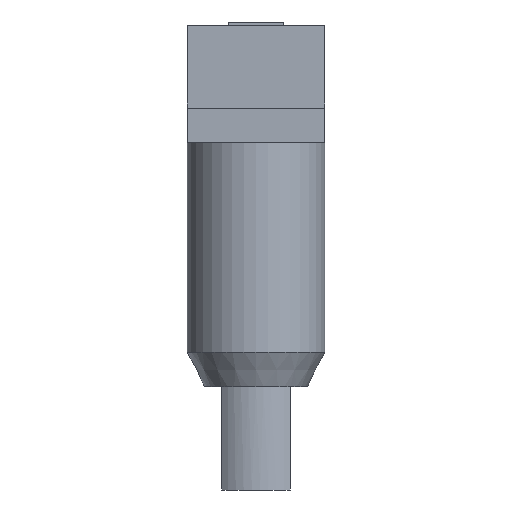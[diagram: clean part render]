
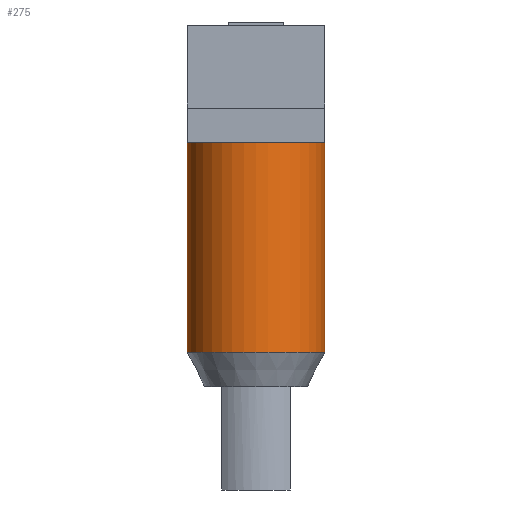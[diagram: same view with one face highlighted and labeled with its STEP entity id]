
A CAD part, left-side view. The second image highlights one B-rep face of the part: STEP entity #275.
In plain terms, the highlighted cylindrical face has radius 2 mm (diameter 4 mm), a full revolution.
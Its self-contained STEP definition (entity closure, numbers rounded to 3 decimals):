
#275=ADVANCED_FACE('',(#535,#537),#539,.T.);
#535=FACE_BOUND('',#536,.T.);
#536=EDGE_LOOP('',(#723,#724,#725));
#537=FACE_OUTER_BOUND('',#538,.T.);
#538=EDGE_LOOP('',(#726));
#539=CYLINDRICAL_SURFACE('',#540,2.);
#540=AXIS2_PLACEMENT_3D('',#541,#542,#543);
#541=CARTESIAN_POINT('',(0.,0.,-1.));
#542=DIRECTION('',(0.,0.,-1.));
#543=DIRECTION('',(-1.,0.,0.));
#723=ORIENTED_EDGE('',*,*,#828,.T.);
#724=ORIENTED_EDGE('',*,*,#829,.T.);
#725=ORIENTED_EDGE('',*,*,#830,.T.);
#726=ORIENTED_EDGE('',*,*,#831,.F.);
#828=EDGE_CURVE('',#942,#943,#944,.T.);
#829=EDGE_CURVE('',#943,#945,#946,.T.);
#830=EDGE_CURVE('',#945,#942,#947,.T.);
#831=EDGE_CURVE('',#948,#948,#949,.T.);
#942=VERTEX_POINT('',#1190);
#943=VERTEX_POINT('',#1191);
#944=CIRCLE('',#1192,2.);
#945=VERTEX_POINT('',#1196);
#946=CIRCLE('',#1197,2.);
#947=CIRCLE('',#1201,2.);
#948=VERTEX_POINT('',#1205);
#949=CIRCLE('',#1206,2.);
#1190=CARTESIAN_POINT('',(0.,2.,-1.));
#1191=CARTESIAN_POINT('',(0.,-2.,-1.));
#1192=AXIS2_PLACEMENT_3D('',#1193,#1194,#1195);
#1193=CARTESIAN_POINT('',(0.,0.,-1.));
#1194=DIRECTION('',(0.,0.,-1.));
#1195=DIRECTION('',(0.,1.,0.));
#1196=CARTESIAN_POINT('',(-2.,0.,-1.));
#1197=AXIS2_PLACEMENT_3D('',#1198,#1199,#1200);
#1198=CARTESIAN_POINT('',(0.,0.,-1.));
#1199=DIRECTION('',(0.,0.,-1.));
#1200=DIRECTION('',(0.,-1.,0.));
#1201=AXIS2_PLACEMENT_3D('',#1202,#1203,#1204);
#1202=CARTESIAN_POINT('',(0.,0.,-1.));
#1203=DIRECTION('',(0.,0.,-1.));
#1204=DIRECTION('',(-1.,0.,0.));
#1205=CARTESIAN_POINT('',(-2.,0.,-7.1));
#1206=AXIS2_PLACEMENT_3D('',#1207,#1208,#1209);
#1207=CARTESIAN_POINT('',(0.,0.,-7.1));
#1208=DIRECTION('',(0.,0.,-1.));
#1209=DIRECTION('',(-1.,0.,0.));
